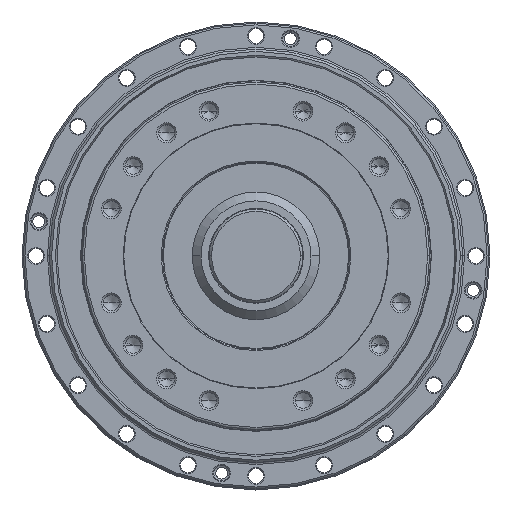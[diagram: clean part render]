
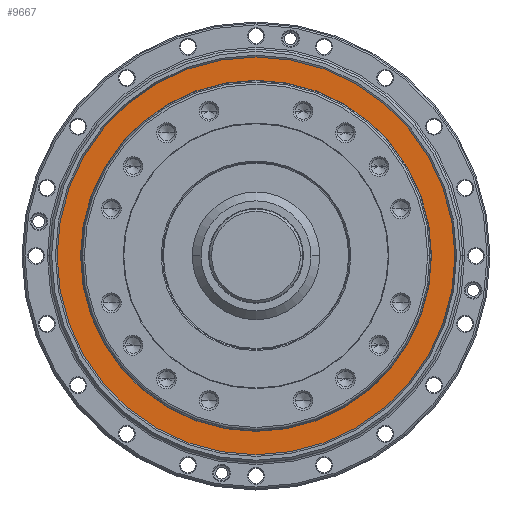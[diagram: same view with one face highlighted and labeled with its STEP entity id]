
A CAD part, top view. The second image highlights one B-rep face of the part: STEP entity #9667.
In plain terms, the highlighted planar face has unit normal (0, 0, 1).
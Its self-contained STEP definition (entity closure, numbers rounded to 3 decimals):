
#787 = VERTEX_POINT ( 'NONE', #3780 ) ;
#845 = AXIS2_PLACEMENT_3D ( 'NONE', #5276, #3366, #12091 ) ;
#849 = DIRECTION ( 'NONE',  ( 0., 0., 1. ) ) ;
#1025 = ORIENTED_EDGE ( 'NONE', *, *, #2922, .T. ) ;
#1164 = CARTESIAN_POINT ( 'NONE',  ( -75., 0., 7. ) ) ;
#1529 = EDGE_CURVE ( 'NONE', #7818, #787, #11916, .T. ) ;
#1683 = CARTESIAN_POINT ( 'NONE',  ( -85., 0., 7. ) ) ;
#1698 = CARTESIAN_POINT ( 'NONE',  ( 0., 0., 7. ) ) ;
#2558 = EDGE_LOOP ( 'NONE', ( #1025, #7187 ) ) ;
#2922 = EDGE_CURVE ( 'NONE', #5560, #4906, #8592, .T. ) ;
#3027 = AXIS2_PLACEMENT_3D ( 'NONE', #10078, #5288, #12060 ) ;
#3032 = EDGE_LOOP ( 'NONE', ( #3096, #4346 ) ) ;
#3096 = ORIENTED_EDGE ( 'NONE', *, *, #1529, .F. ) ;
#3266 = CIRCLE ( 'NONE', #845, 75. ) ;
#3317 = AXIS2_PLACEMENT_3D ( 'NONE', #3459, #11267, #6430 ) ;
#3366 = DIRECTION ( 'NONE',  ( 0., 0., 1. ) ) ;
#3459 = CARTESIAN_POINT ( 'NONE',  ( 0., 0., 7. ) ) ;
#3780 = CARTESIAN_POINT ( 'NONE',  ( 75., 0., 7. ) ) ;
#4280 = EDGE_CURVE ( 'NONE', #4906, #5560, #10042, .T. ) ;
#4346 = ORIENTED_EDGE ( 'NONE', *, *, #10058, .F. ) ;
#4556 = DIRECTION ( 'NONE',  ( 1., 0., 0. ) ) ;
#4906 = VERTEX_POINT ( 'NONE', #11686 ) ;
#5097 = FACE_OUTER_BOUND ( 'NONE', #2558, .T. ) ;
#5276 = CARTESIAN_POINT ( 'NONE',  ( 0., 0., 7. ) ) ;
#5288 = DIRECTION ( 'NONE',  ( 0., 0., 1. ) ) ;
#5494 = PLANE ( 'NONE',  #10251 ) ;
#5560 = VERTEX_POINT ( 'NONE', #1683 ) ;
#6430 = DIRECTION ( 'NONE',  ( 1., 0., 0. ) ) ;
#7187 = ORIENTED_EDGE ( 'NONE', *, *, #4280, .T. ) ;
#7818 = VERTEX_POINT ( 'NONE', #1164 ) ;
#8127 = FACE_BOUND ( 'NONE', #3032, .T. ) ;
#8592 = CIRCLE ( 'NONE', #3027, 85. ) ;
#9667 = ADVANCED_FACE ( 'NONE', ( #5097, #8127 ), #5494, .T. ) ;
#9745 = DIRECTION ( 'NONE',  ( 1., 0., 0. ) ) ;
#10042 = CIRCLE ( 'NONE', #12137, 85. ) ;
#10058 = EDGE_CURVE ( 'NONE', #787, #7818, #3266, .T. ) ;
#10078 = CARTESIAN_POINT ( 'NONE',  ( 0., 0., 7. ) ) ;
#10251 = AXIS2_PLACEMENT_3D ( 'NONE', #1698, #849, #4556 ) ;
#10508 = CARTESIAN_POINT ( 'NONE',  ( 0., 0., 7. ) ) ;
#11267 = DIRECTION ( 'NONE',  ( 0., 0., 1. ) ) ;
#11686 = CARTESIAN_POINT ( 'NONE',  ( 85., 0., 7. ) ) ;
#11916 = CIRCLE ( 'NONE', #3317, 75. ) ;
#12060 = DIRECTION ( 'NONE',  ( 1., 0., 0. ) ) ;
#12091 = DIRECTION ( 'NONE',  ( 1., 0., 0. ) ) ;
#12137 = AXIS2_PLACEMENT_3D ( 'NONE', #10508, #12478, #9745 ) ;
#12478 = DIRECTION ( 'NONE',  ( 0., 0., 1. ) ) ;
